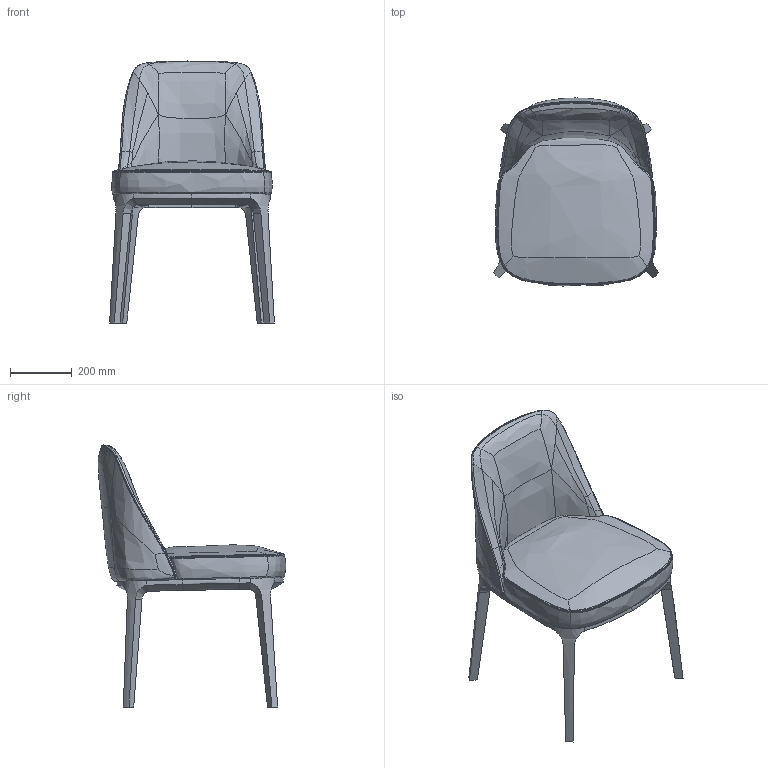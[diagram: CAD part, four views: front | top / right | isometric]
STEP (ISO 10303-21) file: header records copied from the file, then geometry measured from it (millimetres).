
FILE_DESCRIPTION(/* description */ (''),/* implementation_level */ '2;1');
FILE_NAME(/* name */ 'C:\Users\simone\Dropbox\3DTECH\Cassina - Catalogo Custom Interiors\MODELLI 3D\DEFINITIVI\ESPORTATI\CI-A02C SEDIA SENZA BRACCIOLI\CI-A02C SEDIA SENZA BRACCIOLI.stp',/* time_stamp */ '2021-11-24T13:22:05+07:00',/* author */ ('simone'),/* organization */ (''),/* preprocessor_version */ 'ST-DEVELOPER v18.1',/* originating_system */ 'Autodesk Inventor 2022',/* authorisation */ '');
FILE_SCHEMA (('AUTOMOTIVE_DESIGN { 1 0 10303 214 3 1 1 }'));
Products named in the file (1): IN-OUT CHAIR- EVA_REV00
Bounding box: 534.65 x 609.79 x 850.04 mm (x, y, z)
Volume: 42355967 mm3; surface area: 1605744 mm2
Topology: 5 solids, 5 shells, 348 faces, 853 edges, 509 vertices
Faces by surface type: bspline 302, plane 23, cylinder 21, cone 2
Entity records: 39221 total; most frequent: CARTESIAN_POINT 32885, ORIENTED_EDGE 1706, EDGE_CURVE 853, DIRECTION 611, B_SPLINE_CURVE_WITH_KNOTS 552, VERTEX_POINT 509, EDGE_LOOP 350, FACE_OUTER_BOUND 348
